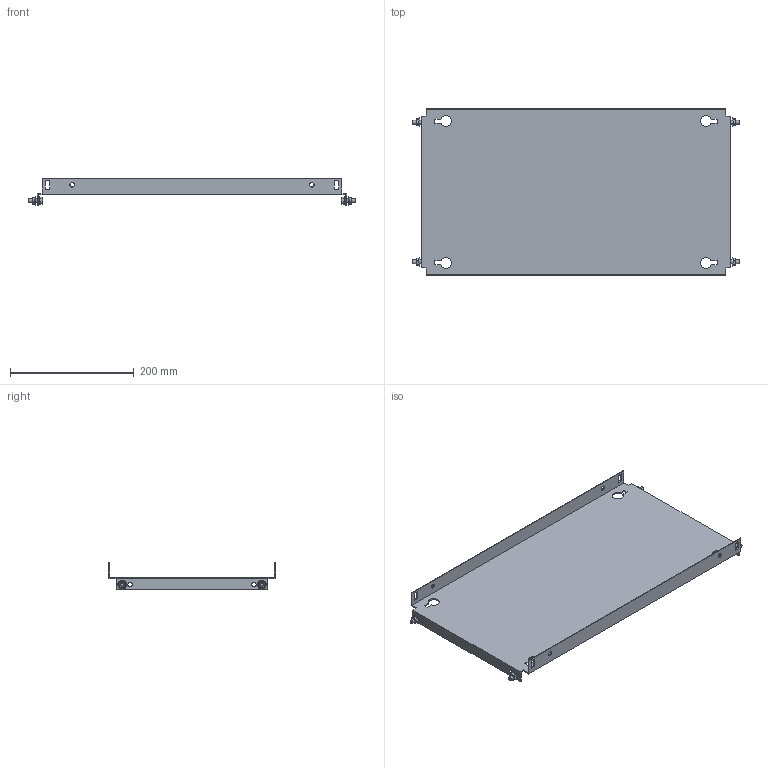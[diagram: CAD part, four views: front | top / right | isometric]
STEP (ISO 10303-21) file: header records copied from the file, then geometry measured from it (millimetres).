
FILE_DESCRIPTION(('Open CASCADE Model'),'2;1');
FILE_NAME('Open CASCADE Shape Model','2025-02-20T13:24:39',('Author'),( 'Open CASCADE'),'Open CASCADE STEP processor 7.8','Open CASCADE 7.8' ,'Unknown');
FILE_SCHEMA(('AUTOMOTIVE_DESIGN { 1 0 10303 214 1 1 1 1 }'));
Length unit declared in the file: millimetre
Products named in the file (4): Compound1; Solid1; Solid2; Solid3
Assembly tree (9 placements, depth 2):
  Compound1
    Solid1
    Solid2  x4
    Solid3  x4
Bounding box: 528 x 269 x 43 mm (x, y, z)
Volume: 333503.7 mm3; surface area: 337405.8 mm2
Topology: 9 solids, 9 shells, 306 faces, 746 edges, 462 vertices
Faces by surface type: plane 150, cone 68, bspline 48, cylinder 28, torus 12
Full cylindrical faces by diameter (mm): 5 x4, 6 x8, 7 x12
Entity records: 4844 total; most frequent: CARTESIAN_POINT 1361, ORIENTED_EDGE 742, DIRECTION 628, EDGE_CURVE 371, VERTEX_POINT 240, LINE 216, VECTOR 216, AXIS2_PLACEMENT_3D 206
